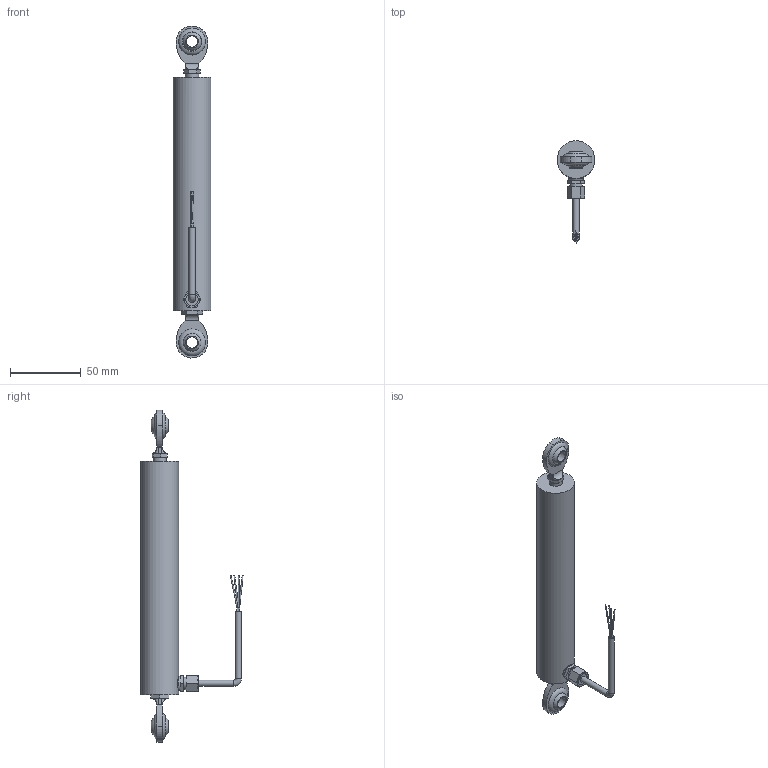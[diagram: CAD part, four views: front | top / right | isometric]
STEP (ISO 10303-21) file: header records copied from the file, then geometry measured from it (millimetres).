
FILE_DESCRIPTION(/* description */ (''),/* implementation_level */ '2;1');
FILE_NAME(/* name */ 'ILPS-27-075-R-00-YY-Z (wrapped).step',/* time_stamp */ '2024-02-08T12:54:50-05:00',/* author */ ('TSC_Grant'),/* organization */ (''),/* preprocessor_version */ 'ST-DEVELOPER v19.2',/* originating_system */ 'Autodesk Inventor 2024',/* authorisation */ '');
FILE_SCHEMA (('AUTOMOTIVE_DESIGN { 1 0 10303 214 3 1 1 }'));
Length unit declared in the file: inch
Products named in the file (4): ILPS-27-100-R-00-50-A (wrapped); ILPS-27-100-R-00-50-A Housing (wrapped); ILPS-27-100-R-00-50-A Shaft (wrapped); LZ-33 Cable
Assembly tree (3 placements, depth 2):
  ILPS-27-100-R-00-50-A (wrapped)
    ILPS-27-100-R-00-50-A Housing (wrapped)
    ILPS-27-100-R-00-50-A Shaft (wrapped)
    LZ-33 Cable
Bounding box: 26.67 x 72.34 x 234.92 mm (x, y, z)
Volume: 94647.2 mm3; surface area: 29857.9 mm2
Topology: 4 solids, 4 shells, 155 faces, 348 edges, 229 vertices
Faces by surface type: plane 78, cylinder 55, bspline 10, torus 6, sphere 4, cone 2
Full cylindrical faces by diameter (mm): 0.635 x4, 0.762 x4, 4.369 x3, 4.572 x2, 6.35 x1, 6.858 x1, 8 x2, 8.712 x2, 9.398 x2, 10.999 x1, 26.67 x1
Entity records: 7341 total; most frequent: CARTESIAN_POINT 3418, DIRECTION 757, ORIENTED_EDGE 696, EDGE_CURVE 348, AXIS2_PLACEMENT_3D 306, VERTEX_POINT 229, EDGE_LOOP 189, STYLED_ITEM 159
